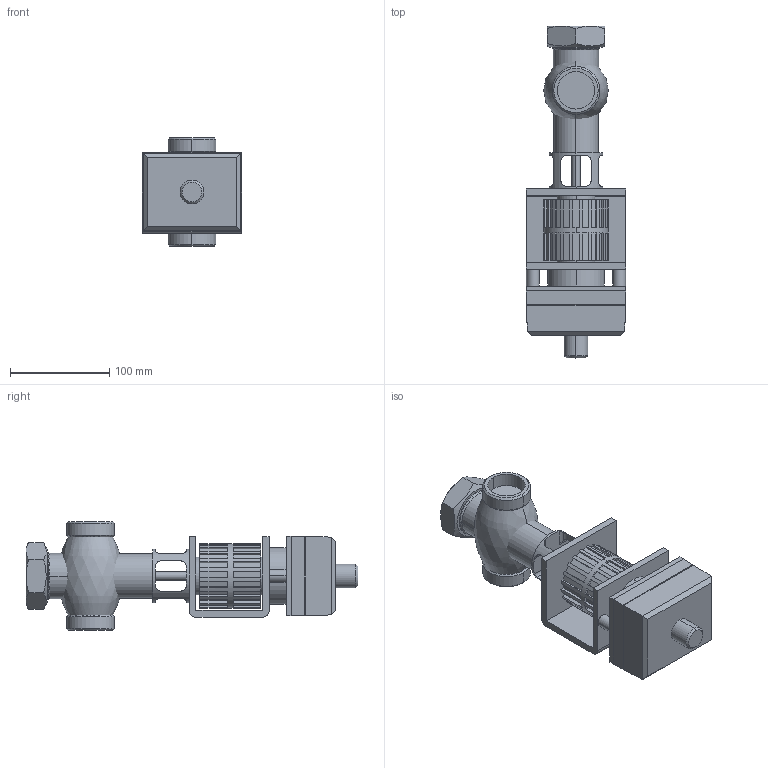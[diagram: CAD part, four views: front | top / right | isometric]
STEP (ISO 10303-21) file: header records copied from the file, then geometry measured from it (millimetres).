
FILE_DESCRIPTION((''),'2;1');
FILE_NAME('000282.stp','2006-10-04T15:54:17',(''),(''),'Mechanical Desktop 2006','Mechanical Desktop 2006',', , ');
FILE_SCHEMA(('AUTOMOTIVE_DESIGN { 1 2 10303 214 0 1 1 1 }'));
Length unit declared in the file: millimetre
Products named in the file (1): Product
Bounding box: 100 x 335 x 110 mm (x, y, z)
Volume: 1383584.7 mm3; surface area: 239381.6 mm2
Topology: 27 solids, 27 shells, 505 faces, 1316 edges, 863 vertices
Faces by surface type: plane 229, cylinder 144, bspline 126, cone 6
Entity records: 16188 total; most frequent: CARTESIAN_POINT 3853, ORIENTED_EDGE 2632, DIRECTION 2419, EDGE_CURVE 1316, VECTOR 877, LINE 877, VERTEX_POINT 863, AXIS2_PLACEMENT_3D 771
